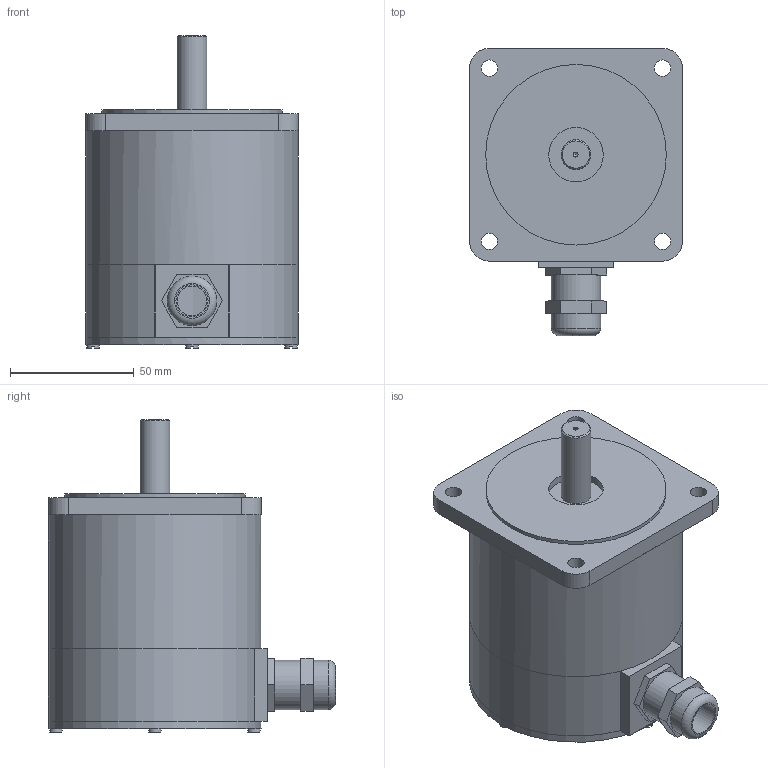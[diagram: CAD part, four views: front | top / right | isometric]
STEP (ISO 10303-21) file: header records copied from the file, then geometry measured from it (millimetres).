
FILE_DESCRIPTION((''),'2;1');
FILE_NAME('C:\Users\Reinhard\Documents\Inventor\Testschrittmotor\SM88\SM88.1-KV.stp','2012-11-11T21:18:09',('Reinhard'),(''),'Autodesk Inventor 2012','Autodesk Inventor 2012','');
FILE_SCHEMA(('CONFIG_CONTROL_DESIGN'));
Length unit declared in the file: millimetre
Products named in the file (1): SM88
Bounding box: 86 x 115.99 x 126.4 mm (x, y, z)
Volume: 142593.1 mm3; surface area: 78720.4 mm2
Topology: 2 solids, 2 shells, 105 faces, 233 edges, 148 vertices
Faces by surface type: plane 64, cylinder 35, cone 3, sphere 2, torus 1
Full cylindrical faces by diameter (mm): 2 x1, 5 x4, 6.6 x4, 12 x2, 13 x2, 15 x1, 18.376 x1, 20 x3, 22 x1, 73 x1, 78 x2, 82 x1, 86 x2
Entity records: 2775 total; most frequent: CARTESIAN_POINT 496, DIRECTION 491, ORIENTED_EDGE 390, EDGE_CURVE 195, AXIS2_PLACEMENT_3D 194, EDGE_LOOP 162, VERTEX_POINT 139, FACE_OUTER_BOUND 105
